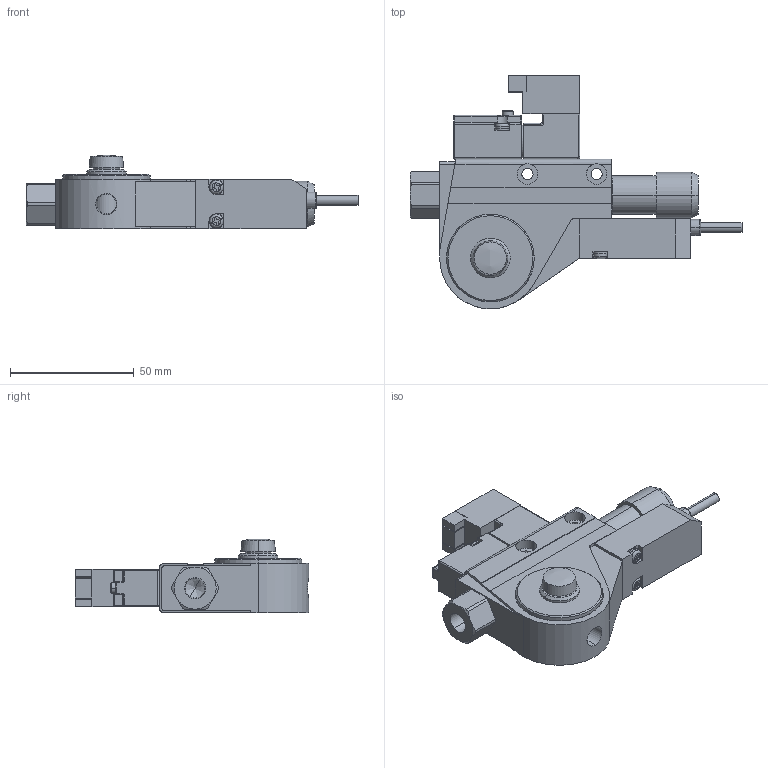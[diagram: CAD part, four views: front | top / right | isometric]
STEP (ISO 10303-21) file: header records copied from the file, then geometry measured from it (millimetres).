
FILE_DESCRIPTION( (''), '2;1');
FILE_NAME ('WS50.17532.CVF-2-###AB#B#_15840.stp','2020-11-09T14:41:46',(''),(''),'spGate 14.4.8','','');
FILE_SCHEMA (('AUTOMOTIVE_DESIGN'));
Length unit declared in the file: millimetre
Products named in the file (15): Assembly; CVF-2_z___^_C; _c_M_e; P5142_d_____1; MSS-01; _J_K_~_C_^Assy; P5142_d_____2; P5142_d_____3; P5142_d_____4; P5142_d_____5; _v___O_u___b_N_2; _v___O_u___b_N_3; _v___O_u___b_N_4; _v___O_u___b_N_5; MVS-030ABコンバム搭載用
Assembly tree (14 placements, depth 2):
  Assembly
    CVF-2_z___^_C
    _c_M_e
    P5142_d_____1
    MSS-01
    _J_K_~_C_^Assy
    P5142_d_____2
    P5142_d_____3
    P5142_d_____4
    P5142_d_____5
    _v___O_u___b_N_2
    _v___O_u___b_N_3
    _v___O_u___b_N_4
    _v___O_u___b_N_5
    MVS-030ABコンバム搭載用
Bounding box: 134.26 x 94.5 x 29.8 mm (x, y, z)
Volume: 100175.6 mm3; surface area: 35282.8 mm2
Topology: 14 solids, 14 shells, 489 faces, 1160 edges, 734 vertices
Faces by surface type: plane 221, cylinder 199, bspline 60, sphere 9
Entity records: 24588 total; most frequent: CARTESIAN_POINT 3672, DIRECTION 2311, ORIENTED_EDGE 2300, COLOUR_RGB 1653, PRESENTATION_STYLE_ASSIGNMENT 1653, STYLED_ITEM 1653, EDGE_CURVE 1150, DRAUGHTING_PRE_DEFINED_CURVE_FONT 1150
